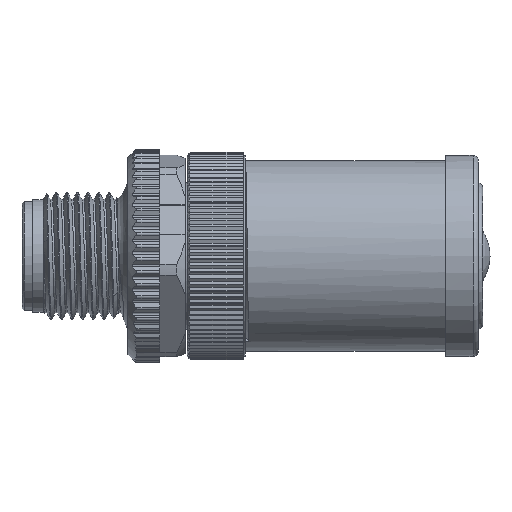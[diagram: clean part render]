
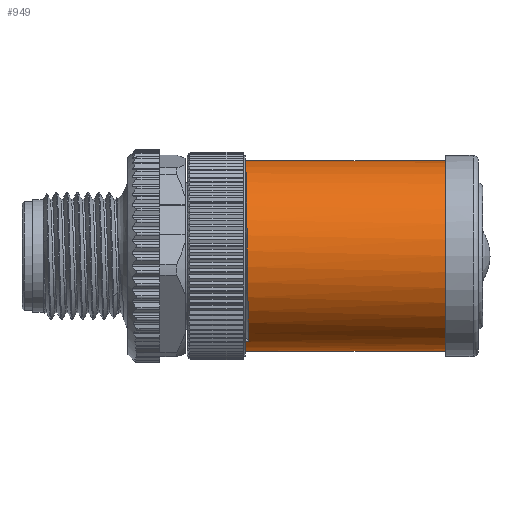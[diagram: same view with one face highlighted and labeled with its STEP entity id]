
A CAD part, top view. The second image highlights one B-rep face of the part: STEP entity #949.
In plain terms, the highlighted cylindrical face has radius 9 mm (diameter 18 mm), a full revolution.
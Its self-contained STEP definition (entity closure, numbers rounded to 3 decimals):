
#56=ELLIPSE('',#13425,12.728,9.);
#57=ELLIPSE('',#13426,12.728,9.);
#58=ELLIPSE('',#13427,12.728,9.);
#153=FACE_BOUND('',#2562,.T.);
#154=FACE_BOUND('',#2563,.T.);
#949=ADVANCED_FACE('',(#153,#154),#1449,.T.);
#1449=CYLINDRICAL_SURFACE('',#13429,9.);
#2562=EDGE_LOOP('',(#7206,#7207,#7208));
#2563=EDGE_LOOP('',(#7209,#7210,#7211,#7212));
#3230=B_SPLINE_CURVE_WITH_KNOTS('',3,(#26144,#26145,#26146,#26147,#26148,
#26149,#26150,#26151,#26152,#26153),.UNSPECIFIED.,.F.,.F.,(4,2,2,2,4),(0.,
0.25,0.5,0.75,1.),.UNSPECIFIED.);
#3880=LINE('',#26139,#4861);
#4861=VECTOR('',#15515,1.);
#7206=ORIENTED_EDGE('',*,*,#11449,.F.);
#7207=ORIENTED_EDGE('',*,*,#11450,.T.);
#7208=ORIENTED_EDGE('',*,*,#11451,.F.);
#7209=ORIENTED_EDGE('',*,*,#11452,.F.);
#7210=ORIENTED_EDGE('',*,*,#11453,.F.);
#7211=ORIENTED_EDGE('',*,*,#11454,.F.);
#7212=ORIENTED_EDGE('',*,*,#11455,.T.);
#9864=VERTEX_POINT('',#26140);
#9865=VERTEX_POINT('',#26141);
#9866=VERTEX_POINT('',#26143);
#9867=VERTEX_POINT('',#26155);
#9868=VERTEX_POINT('',#26156);
#9869=VERTEX_POINT('',#26158);
#9870=VERTEX_POINT('',#26160);
#11449=EDGE_CURVE('',#9864,#9865,#3880,.T.);
#11450=EDGE_CURVE('',#9864,#9866,#12660,.T.);
#11451=EDGE_CURVE('',#9865,#9866,#3230,.T.);
#11452=EDGE_CURVE('',#9867,#9868,#56,.T.);
#11453=EDGE_CURVE('',#9869,#9867,#57,.T.);
#11454=EDGE_CURVE('',#9870,#9869,#58,.T.);
#11455=EDGE_CURVE('',#9870,#9868,#12661,.T.);
#12660=CIRCLE('',#13424,9.);
#12661=CIRCLE('',#13428,9.);
#13424=AXIS2_PLACEMENT_3D('',#26142,#15516,#15517);
#13425=AXIS2_PLACEMENT_3D('',#26154,#15518,#15519);
#13426=AXIS2_PLACEMENT_3D('',#26157,#15520,#15521);
#13427=AXIS2_PLACEMENT_3D('',#26159,#15522,#15523);
#13428=AXIS2_PLACEMENT_3D('',#26161,#15524,#15525);
#13429=AXIS2_PLACEMENT_3D('',#26162,#15526,#15527);
#15515=DIRECTION('',(1.,0.,0.));
#15516=DIRECTION('',(1.,0.,0.));
#15517=DIRECTION('',(0.,0.,-1.));
#15518=DIRECTION('',(-0.707,0.,-0.707));
#15519=DIRECTION('',(0.707,0.,-0.707));
#15520=DIRECTION('',(0.707,0.,-0.707));
#15521=DIRECTION('',(0.707,0.,0.707));
#15522=DIRECTION('',(-0.707,0.,-0.707));
#15523=DIRECTION('',(0.707,0.,-0.707));
#15524=DIRECTION('',(-1.,0.,0.));
#15525=DIRECTION('',(0.,0.,-1.));
#15526=DIRECTION('',(1.,0.,0.));
#15527=DIRECTION('',(0.,0.,-1.));
#26139=CARTESIAN_POINT('',(10.,-8.087,6.95));
#26140=CARTESIAN_POINT('',(2.1,-8.087,6.95));
#26141=CARTESIAN_POINT('',(2.419,-8.087,6.95));
#26142=CARTESIAN_POINT('',(2.1,0.,3.));
#26143=CARTESIAN_POINT('',(2.1,8.999,3.142));
#26144=CARTESIAN_POINT('',(2.419,-8.087,6.95));
#26145=CARTESIAN_POINT('',(2.392,-7.2,8.765));
#26146=CARTESIAN_POINT('',(2.366,-5.697,10.248));
#26147=CARTESIAN_POINT('',(2.313,-2.1,11.976));
#26148=CARTESIAN_POINT('',(2.286,0.016,12.22));
#26149=CARTESIAN_POINT('',(2.233,3.923,11.344));
#26150=CARTESIAN_POINT('',(2.206,5.709,10.243));
#26151=CARTESIAN_POINT('',(2.153,8.251,7.12));
#26152=CARTESIAN_POINT('',(2.126,8.967,5.135));
#26153=CARTESIAN_POINT('',(2.1,8.999,3.142));
#26154=CARTESIAN_POINT('',(13.4,0.,3.));
#26155=CARTESIAN_POINT('',(13.4,9.,3.));
#26156=CARTESIAN_POINT('',(21.,4.821,-4.6));
#26157=CARTESIAN_POINT('',(13.4,0.,3.));
#26158=CARTESIAN_POINT('',(13.4,-9.,3.));
#26159=CARTESIAN_POINT('',(13.4,0.,3.));
#26160=CARTESIAN_POINT('',(21.,-4.821,-4.6));
#26161=CARTESIAN_POINT('',(21.,0.,3.));
#26162=CARTESIAN_POINT('',(10.,0.,3.));
